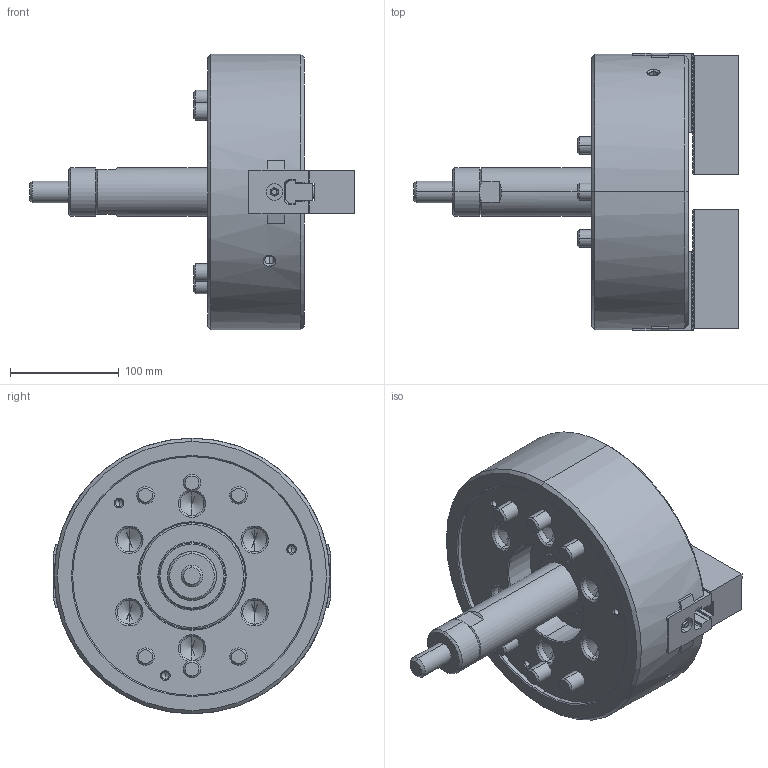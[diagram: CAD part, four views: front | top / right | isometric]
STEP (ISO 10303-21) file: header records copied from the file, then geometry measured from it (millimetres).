
FILE_DESCRIPTION (( 'STEP AP214' ), '1' );
FILE_NAME ('NLT10_UC.STEP', '2019-12-19T06:55:25', ( '' ), ( '' ), 'SwSTEP 2.0', 'SolidWorks 2017', '' );
FILE_SCHEMA (( 'AUTOMOTIVE_DESIGN' ));
Length unit declared in the file: millimetre
Products named in the file (5): 結合; 0030112035; 61P400852_俿僫僢僩; 61P314663_ソフトジョー; NLT10_UC
Assembly tree (9 placements, depth 2):
  NLT10_UC
    61P314663_ソフトジョー  x2
    61P400852_俿僫僢僩  x2
    0030112035  x4
    結合
Bounding box: 299.2 x 255.8 x 254 mm (x, y, z)
Volume: 4696633.8 mm3; surface area: 330637.5 mm2
Topology: 9 solids, 9 shells, 2255 faces, 6260 edges, 4040 vertices
Faces by surface type: plane 1850, cone 193, cylinder 176, torus 36
Entity records: 53468 total; most frequent: CARTESIAN_POINT 10607, ORIENTED_EDGE 9146, DIRECTION 8328, EDGE_CURVE 4573, VECTOR 3888, LINE 3888, VERTEX_POINT 2965, AXIS2_PLACEMENT_3D 2220
